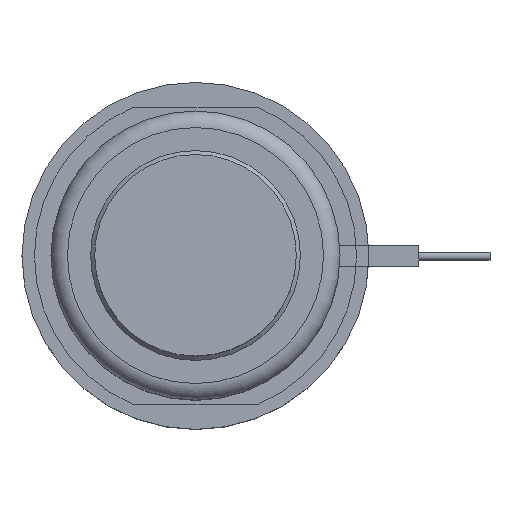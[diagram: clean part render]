
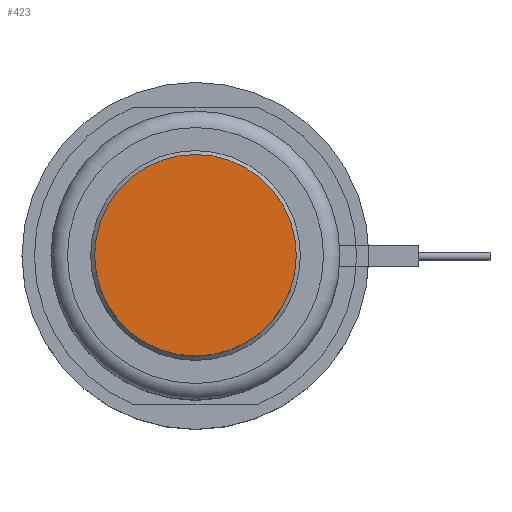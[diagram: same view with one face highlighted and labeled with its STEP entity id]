
A CAD part, top view. The second image highlights one B-rep face of the part: STEP entity #423.
In plain terms, the highlighted planar face has unit normal (0, 0, 1).
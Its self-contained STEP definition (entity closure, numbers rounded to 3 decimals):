
#278=PLANE('',#1403);
#338=FACE_OUTER_BOUND('',#659,.T.);
#423=ADVANCED_FACE('',(#338),#278,.F.);
#659=EDGE_LOOP('',(#925));
#925=ORIENTED_EDGE('',*,*,#1178,.F.);
#1044=VERTEX_POINT('',#2205);
#1178=EDGE_CURVE('',#1044,#1044,#1251,.T.);
#1251=CIRCLE('',#1402,12.2);
#1402=AXIS2_PLACEMENT_3D('',#2204,#1757,#1758);
#1403=AXIS2_PLACEMENT_3D('',#2206,#1759,#1760);
#1757=DIRECTION('',(0.,0.,-1.));
#1758=DIRECTION('',(-1.,0.,0.));
#1759=DIRECTION('',(0.,0.,-1.));
#1760=DIRECTION('',(-1.,0.,0.));
#2204=CARTESIAN_POINT('',(0.,0.,18.));
#2205=CARTESIAN_POINT('',(-12.2,0.,18.));
#2206=CARTESIAN_POINT('',(0.,0.,18.));
